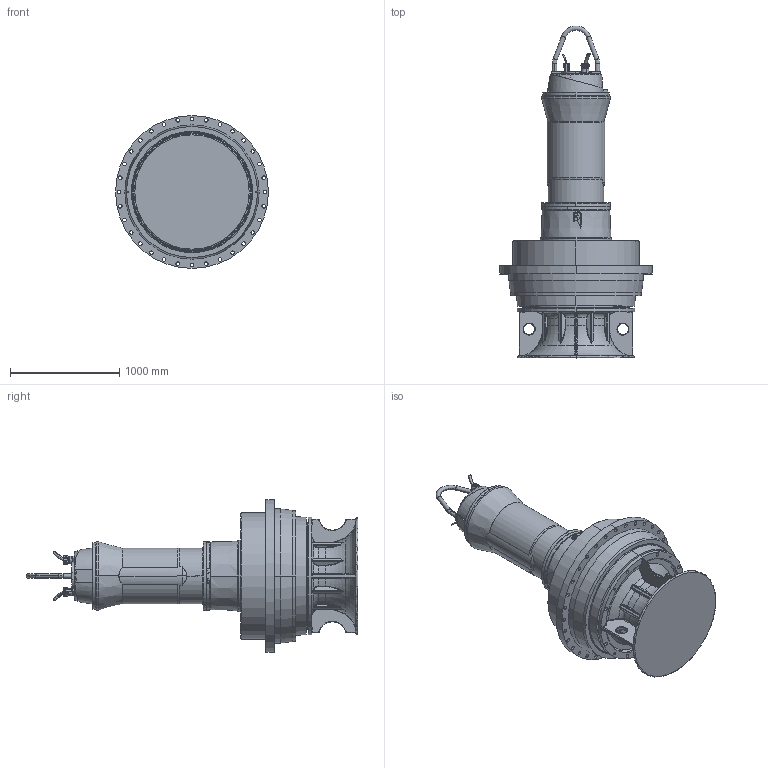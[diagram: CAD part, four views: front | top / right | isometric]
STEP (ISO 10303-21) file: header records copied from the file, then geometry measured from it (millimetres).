
FILE_DESCRIPTION (( 'STEP AP214' ), '1' );
FILE_NAME ('PE6_AFLX12107G3_DIN_A_NG2.STEP', '2017-04-25T11:15:42', ( '' ), ( '' ), 'SwSTEP 2.0', 'SolidWorks 2017', '' );
FILE_SCHEMA (( 'AUTOMOTIVE_DESIGN' ));
Length unit declared in the file: millimetre
Products named in the file (1): PE6_AFLX12107G3_DIN_A_NG2
Bounding box: 1400 x 3042.1 x 1400 mm (x, y, z)
Volume: 1234053015.8 mm3; surface area: 13606420.6 mm2
Topology: 4 solids, 16 shells, 2236 faces, 5412 edges, 3147 vertices
Faces by surface type: cylinder 610, plane 570, bspline 525, torus 237, cone 220, sphere 74
Entity records: 120563 total; most frequent: CARTESIAN_POINT 47744, ORIENTED_EDGE 10546, DIRECTION 9337, EDGE_CURVE 5273, AXIS2_PLACEMENT_3D 3732, VERTEX_POINT 3147, EDGE_LOOP 2462, UNCERTAINTY_MEASURE_WITH_UNIT 2242
